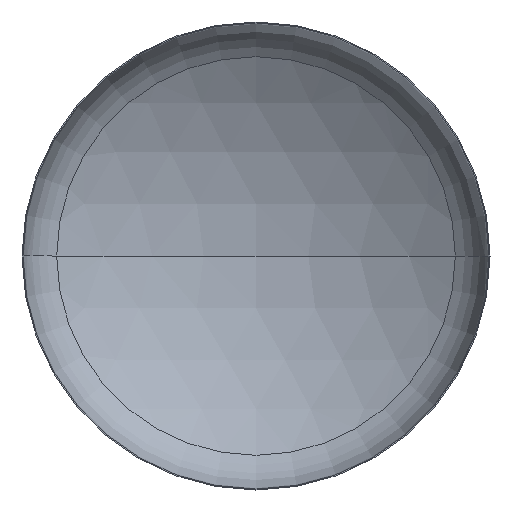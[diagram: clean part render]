
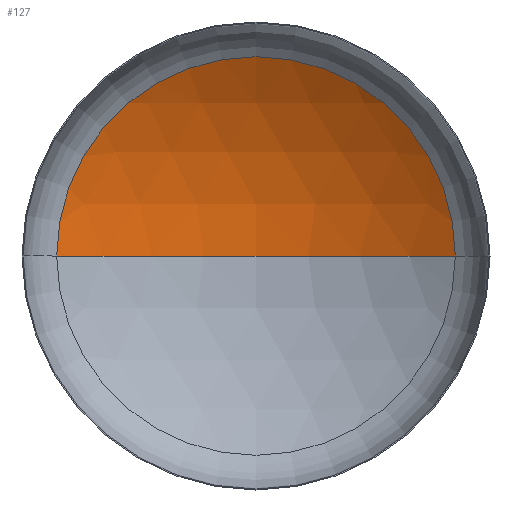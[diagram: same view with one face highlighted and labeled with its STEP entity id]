
A CAD part, front view. The second image highlights one B-rep face of the part: STEP entity #127.
In plain terms, the highlighted spherical face has radius 6000 mm.
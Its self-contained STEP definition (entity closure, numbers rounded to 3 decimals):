
#2 = ORIENTED_EDGE ( 'NONE', *, *, #198, .F. ) ;
#21 = VERTEX_POINT ( 'NONE', #307 ) ;
#23 = VERTEX_POINT ( 'NONE', #310 ) ;
#25 = EDGE_LOOP ( 'NONE', ( #2, #407, #116 ) ) ;
#36 = VERTEX_POINT ( 'NONE', #285 ) ;
#72 = DIRECTION ( 'NONE',  ( 0., 0., 1. ) ) ;
#80 = CARTESIAN_POINT ( 'NONE',  ( 0., -4046.559, 0. ) ) ;
#86 = DIRECTION ( 'NONE',  ( -1., 0., 0. ) ) ;
#89 = DIRECTION ( 'NONE',  ( 0., 0., -1. ) ) ;
#90 = DIRECTION ( 'NONE',  ( 1., 0., 0. ) ) ;
#91 = DIRECTION ( 'NONE',  ( 0., -1., 0. ) ) ;
#92 = CARTESIAN_POINT ( 'NONE',  ( 0., 1032.771, 0. ) ) ;
#95 = CARTESIAN_POINT ( 'NONE',  ( 0., -4046.559, 0. ) ) ;
#96 = SPHERICAL_SURFACE ( 'NONE', #161, 6000. ) ;
#103 = AXIS2_PLACEMENT_3D ( 'NONE', #80, #72, #202 ) ;
#108 = AXIS2_PLACEMENT_3D ( 'NONE', #95, #89, #86 ) ;
#111 = AXIS2_PLACEMENT_3D ( 'NONE', #92, #91, #90 ) ;
#116 = ORIENTED_EDGE ( 'NONE', *, *, #192, .T. ) ;
#127 = ADVANCED_FACE ( 'NONE', ( #171 ), #96, .F. ) ;
#161 = AXIS2_PLACEMENT_3D ( 'NONE', #376, #400, #403 ) ;
#171 = FACE_OUTER_BOUND ( 'NONE', #25, .T. ) ;
#192 = EDGE_CURVE ( 'NONE', #23, #21, #240, .T. ) ;
#195 = EDGE_CURVE ( 'NONE', #36, #23, #357, .T. ) ;
#198 = EDGE_CURVE ( 'NONE', #36, #21, #299, .T. ) ;
#202 = DIRECTION ( 'NONE',  ( 1., 0., 0. ) ) ;
#240 = CIRCLE ( 'NONE', #111, 3193.808 ) ;
#285 = CARTESIAN_POINT ( 'NONE',  ( 0., 1953.441, 0. ) ) ;
#299 = CIRCLE ( 'NONE', #103, 6000. ) ;
#307 = CARTESIAN_POINT ( 'NONE',  ( -3193.808, 1032.771, 0. ) ) ;
#310 = CARTESIAN_POINT ( 'NONE',  ( 3193.808, 1032.771, 0. ) ) ;
#357 = CIRCLE ( 'NONE', #108, 6000. ) ;
#376 = CARTESIAN_POINT ( 'NONE',  ( 0., -4046.559, 0. ) ) ;
#400 = DIRECTION ( 'NONE',  ( 0., 0., -1. ) ) ;
#403 = DIRECTION ( 'NONE',  ( -1., 0., 0. ) ) ;
#407 = ORIENTED_EDGE ( 'NONE', *, *, #195, .T. ) ;
